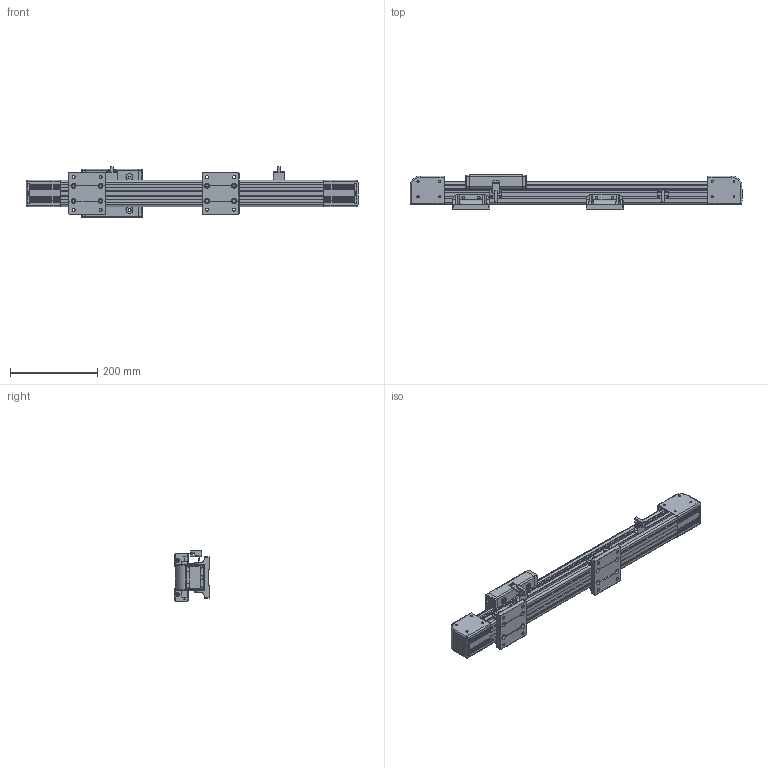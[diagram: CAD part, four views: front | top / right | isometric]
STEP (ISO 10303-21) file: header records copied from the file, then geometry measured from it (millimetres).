
FILE_DESCRIPTION (( 'STEP AP214' ), '1' );
FILE_NAME ('CF60-D-450-FW.STEP', '2020-01-15T07:12:32', ( '微软用户' ), ( '微软中国' ), 'SwSTEP 2.0', 'SolidWorks 2016', '' );
FILE_SCHEMA (( 'AUTOMOTIVE_DESIGN' ));
Length unit declared in the file: millimetre
Products named in the file (14): 嫖萇羲壽; 嫖萇羲壽嘐隅え; P60肮祭湍嫖萇結啣; 8MM嫖粣絳寢-450; 60肮祭湍倰第-450; 菁釱; P60同步带导轨润滑棉安装块右; P60同步带导轨润滑棉安装块; P60肮祭湍坶諶; p60同步带滑块最终版; P60粣創釱傷裔; P60同步带轴承座初稿; CF60-D-450-FW
Assembly tree (21 placements, depth 3):
  CF60-D-450-FW
    P60同步带轴承座初稿  x2
    P60粣創釱傷裔  x2
    p60同步带滑块最终版
    P60肮祭湍坶諶  x2
    P60同步带导轨润滑棉安装块  x2
    P60同步带导轨润滑棉安装块右  x2
    菁釱  x2
    60肮祭湍倰第-450
    8MM嫖粣絳寢-450  x2
    P60肮祭湍嫖萇結啣
    嫖萇羲壽  x2
      嫖萇羲壽嘐隅え
      嫖萇羲壽
Bounding box: 761.6 x 78.7 x 116.6 mm (x, y, z)
Volume: 1698066.9 mm3; surface area: 620070.7 mm2
Topology: 21 solids, 21 shells, 1402 faces, 3788 edges, 2464 vertices
Faces by surface type: cylinder 632, plane 606, torus 76, bspline 36, cone 32, sphere 20
Entity records: 30388 total; most frequent: CARTESIAN_POINT 7803, DIRECTION 4642, ORIENTED_EDGE 4584, EDGE_CURVE 2292, AXIS2_PLACEMENT_3D 1653, VERTEX_POINT 1506, VECTOR 1336, LINE 1336
